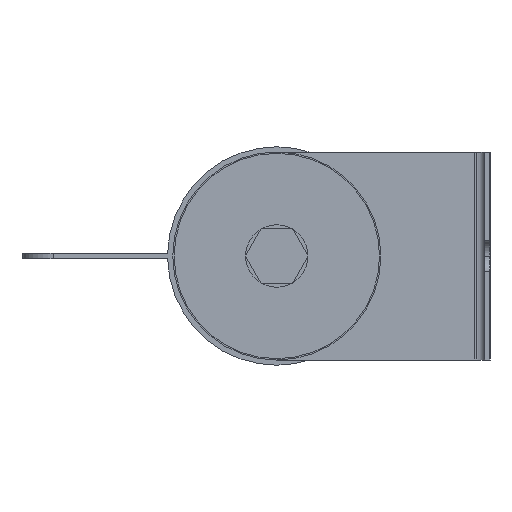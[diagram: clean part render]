
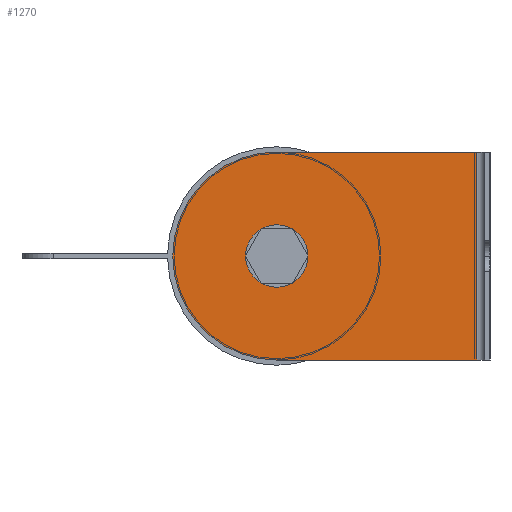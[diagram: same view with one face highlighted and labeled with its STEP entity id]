
A CAD part, left-side view. The second image highlights one B-rep face of the part: STEP entity #1270.
In plain terms, the highlighted planar face has unit normal (-1, 0, 0).
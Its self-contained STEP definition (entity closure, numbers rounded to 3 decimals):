
#39 = AXIS2_PLACEMENT_3D ( 'NONE', #2479, #1274, #1878 ) ;
#64 = EDGE_LOOP ( 'NONE', ( #620, #2478, #127, #2091 ) ) ;
#96 = VERTEX_POINT ( 'NONE', #160 ) ;
#127 = ORIENTED_EDGE ( 'NONE', *, *, #1997, .T. ) ;
#135 = DIRECTION ( 'NONE',  ( 0., 0., 1. ) ) ;
#160 = CARTESIAN_POINT ( 'NONE',  ( -281.5, 0., 20. ) ) ;
#206 = FACE_OUTER_BOUND ( 'NONE', #64, .T. ) ;
#213 = CARTESIAN_POINT ( 'NONE',  ( -281.5, 0., 0. ) ) ;
#291 = CARTESIAN_POINT ( 'NONE',  ( -281.5, -38.5, -20. ) ) ;
#455 = VECTOR ( 'NONE', #1404, 1000. ) ;
#590 = CARTESIAN_POINT ( 'NONE',  ( -281.5, 0., 20. ) ) ;
#607 = EDGE_CURVE ( 'NONE', #96, #1339, #2070, .T. ) ;
#620 = ORIENTED_EDGE ( 'NONE', *, *, #2508, .T. ) ;
#630 = DIRECTION ( 'NONE',  ( 0., 0., 1. ) ) ;
#691 = VECTOR ( 'NONE', #2194, 1000. ) ;
#713 = ORIENTED_EDGE ( 'NONE', *, *, #1741, .F. ) ;
#723 = LINE ( 'NONE', #2617, #691 ) ;
#775 = DIRECTION ( 'NONE',  ( -1., 0., 0. ) ) ;
#806 = EDGE_LOOP ( 'NONE', ( #713, #1100 ) ) ;
#810 = CARTESIAN_POINT ( 'NONE',  ( -281.5, -38.5, 20. ) ) ;
#929 = CIRCLE ( 'NONE', #1390, 6. ) ;
#1015 = PLANE ( 'NONE',  #1033 ) ;
#1033 = AXIS2_PLACEMENT_3D ( 'NONE', #2623, #775, #2177 ) ;
#1100 = ORIENTED_EDGE ( 'NONE', *, *, #1289, .F. ) ;
#1196 = AXIS2_PLACEMENT_3D ( 'NONE', #1758, #1326, #135 ) ;
#1237 = CIRCLE ( 'NONE', #1196, 6. ) ;
#1256 = CARTESIAN_POINT ( 'NONE',  ( -281.5, 0., 6. ) ) ;
#1266 = VECTOR ( 'NONE', #1951, 1000. ) ;
#1270 = ADVANCED_FACE ( 'NONE', ( #2499, #206 ), #1015, .T. ) ;
#1274 = DIRECTION ( 'NONE',  ( -1., 0., 0. ) ) ;
#1289 = EDGE_CURVE ( 'NONE', #2566, #2089, #929, .T. ) ;
#1326 = DIRECTION ( 'NONE',  ( -1., 0., 0. ) ) ;
#1339 = VERTEX_POINT ( 'NONE', #1842 ) ;
#1390 = AXIS2_PLACEMENT_3D ( 'NONE', #213, #2444, #630 ) ;
#1404 = DIRECTION ( 'NONE',  ( 0., 1., 0. ) ) ;
#1646 = CARTESIAN_POINT ( 'NONE',  ( -281.5, 0., -6. ) ) ;
#1660 = LINE ( 'NONE', #590, #455 ) ;
#1694 = EDGE_CURVE ( 'NONE', #2315, #2518, #1787, .T. ) ;
#1741 = EDGE_CURVE ( 'NONE', #2089, #2566, #1237, .T. ) ;
#1758 = CARTESIAN_POINT ( 'NONE',  ( -281.5, 0., 0. ) ) ;
#1787 = LINE ( 'NONE', #2357, #1266 ) ;
#1842 = CARTESIAN_POINT ( 'NONE',  ( -281.5, 0., -20. ) ) ;
#1878 = DIRECTION ( 'NONE',  ( 0., 0., 1. ) ) ;
#1951 = DIRECTION ( 'NONE',  ( 0., 0., 1. ) ) ;
#1997 = EDGE_CURVE ( 'NONE', #2518, #96, #1660, .T. ) ;
#2070 = CIRCLE ( 'NONE', #39, 20. ) ;
#2089 = VERTEX_POINT ( 'NONE', #1646 ) ;
#2091 = ORIENTED_EDGE ( 'NONE', *, *, #607, .T. ) ;
#2177 = DIRECTION ( 'NONE',  ( 0., 0., 1. ) ) ;
#2194 = DIRECTION ( 'NONE',  ( 0., -1., 0. ) ) ;
#2315 = VERTEX_POINT ( 'NONE', #291 ) ;
#2357 = CARTESIAN_POINT ( 'NONE',  ( -281.5, -38.5, 20. ) ) ;
#2444 = DIRECTION ( 'NONE',  ( -1., 0., 0. ) ) ;
#2478 = ORIENTED_EDGE ( 'NONE', *, *, #1694, .T. ) ;
#2479 = CARTESIAN_POINT ( 'NONE',  ( -281.5, 0., 0. ) ) ;
#2499 = FACE_BOUND ( 'NONE', #806, .T. ) ;
#2508 = EDGE_CURVE ( 'NONE', #1339, #2315, #723, .T. ) ;
#2518 = VERTEX_POINT ( 'NONE', #810 ) ;
#2566 = VERTEX_POINT ( 'NONE', #1256 ) ;
#2617 = CARTESIAN_POINT ( 'NONE',  ( -281.5, 0., -20. ) ) ;
#2623 = CARTESIAN_POINT ( 'NONE',  ( -281.5, 0., 0. ) ) ;
